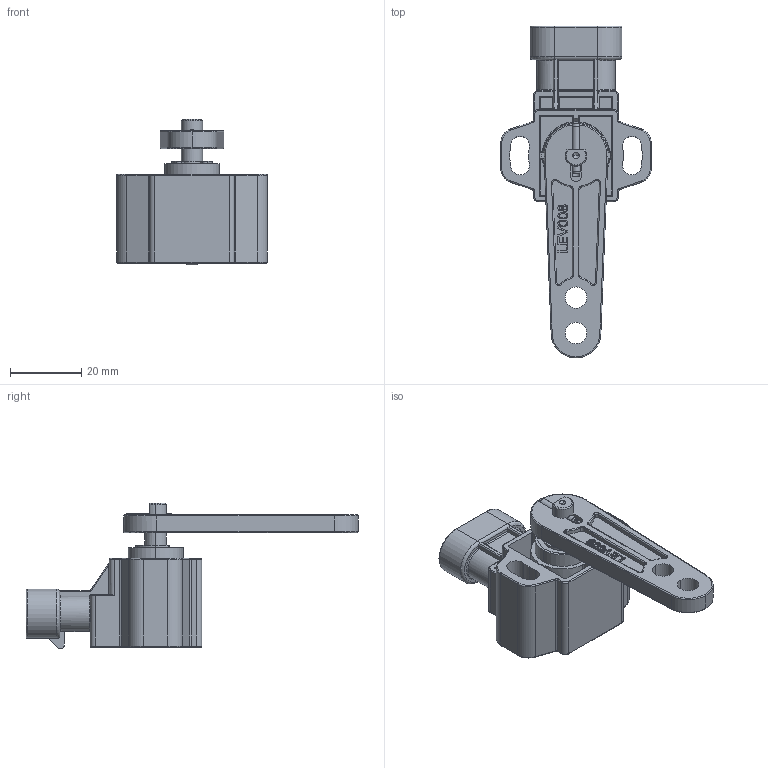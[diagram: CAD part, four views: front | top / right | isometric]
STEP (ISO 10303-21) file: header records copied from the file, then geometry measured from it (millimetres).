
FILE_DESCRIPTION (( 'STEP AP203' ), '1' );
FILE_NAME ('GR3PA S3E2SL xxx xxxx B0.STEP', '2024-12-19T14:44:25', ( '' ), ( '' ), 'SwSTEP 2.0', 'SolidWorks 2024', '' );
FILE_SCHEMA (( 'CONFIG_CONTROL_DESIGN' ));
Length unit declared in the file: millimetre
Products named in the file (1): GR3PA S3E2SL xxx xxxx B0
Bounding box: 42.5 x 93.5 x 41.07 mm (x, y, z)
Volume: 26209.5 mm3; surface area: 15337.1 mm2
Topology: 9 solids, 9 shells, 720 faces, 1764 edges, 1073 vertices
Faces by surface type: cylinder 259, plane 235, torus 82, bspline 81, cone 36, sphere 27
Entity records: 26013 total; most frequent: CARTESIAN_POINT 9360, ORIENTED_EDGE 3480, DIRECTION 3440, EDGE_CURVE 1740, AXIS2_PLACEMENT_3D 1298, VERTEX_POINT 1073, LINE 844, VECTOR 844
